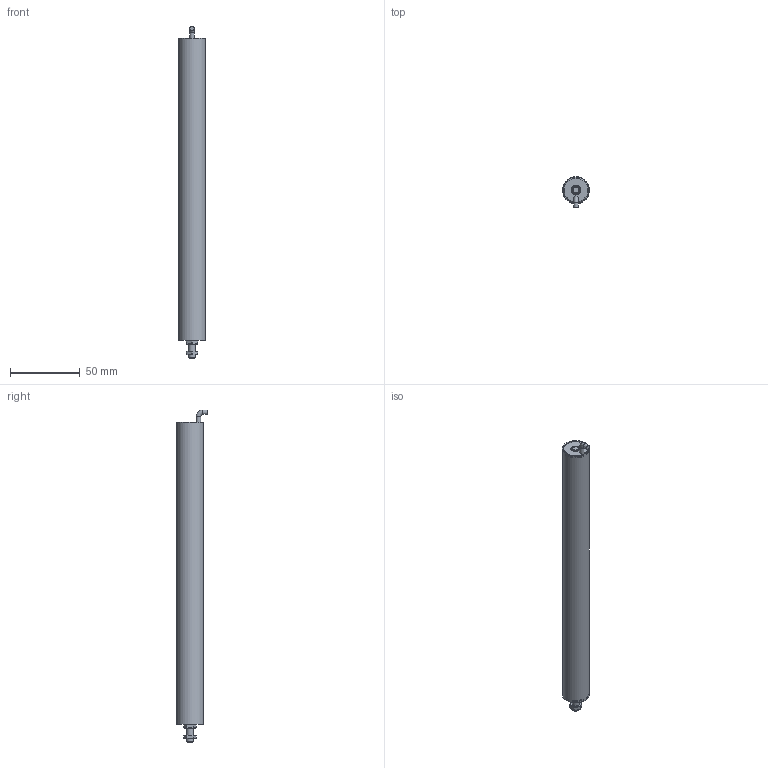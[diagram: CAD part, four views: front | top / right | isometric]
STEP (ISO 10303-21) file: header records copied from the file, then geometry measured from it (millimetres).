
FILE_DESCRIPTION(/* description */ ('ILPS-19Z-XXX-A-00-ZZ shrinkwrapped'),/* implementation_level */ '2;1');
FILE_NAME(/* name */ 'ILPS-19Z-200-A-00-ZZ shrinkwrapped.stp',/* time_stamp */ '2026-08-13T16:10:15-04:00',/* author */ ('Cameron'),/* organization */ ('hgsi'),/* preprocessor_version */ 'ST-DEVELOPER v20.1',/* originating_system */ 'Autodesk Inventor 2027',/* authorisation */ '');
FILE_SCHEMA (('AUTOMOTIVE_DESIGN { 1 0 10303 214 3 1 1 }'));
Length unit declared in the file: inch
Products named in the file (4): ILPS-19Z-200-A-00-ZZ shrinkwrapped; ILPS-19Z-200-A-00-ZZ-A shrinkwrapped body; ILPS-19Z-200 Rod; 8200-0360
Assembly tree (4 placements, depth 2):
  ILPS-19Z-200-A-00-ZZ shrinkwrapped
    ILPS-19Z-200-A-00-ZZ-A shrinkwrapped body
    ILPS-19Z-200 Rod
    8200-0360  x2
Bounding box: 19.05 x 21.89 x 237.3 mm (x, y, z)
Volume: 11905.6 mm3; surface area: 46014.3 mm2
Topology: 6 solids, 6 shells, 95 faces, 226 edges, 149 vertices
Faces by surface type: cylinder 41, plane 33, cone 16, bspline 4, torus 1
Full cylindrical faces by diameter (mm): 3.175 x2, 3.961 x2, 4.75 x1, 4.775 x1, 5 x4, 5.08 x1, 5.944 x2, 5.994 x1, 7.061 x1, 7.137 x2, 18.364 x1, 18.415 x1, 19.05 x1
Entity records: 2811 total; most frequent: CARTESIAN_POINT 1138, DIRECTION 304, ORIENTED_EDGE 302, EDGE_CURVE 151, AXIS2_PLACEMENT_3D 127, VERTEX_POINT 99, EDGE_LOOP 82, FACE_OUTER_BOUND 68
